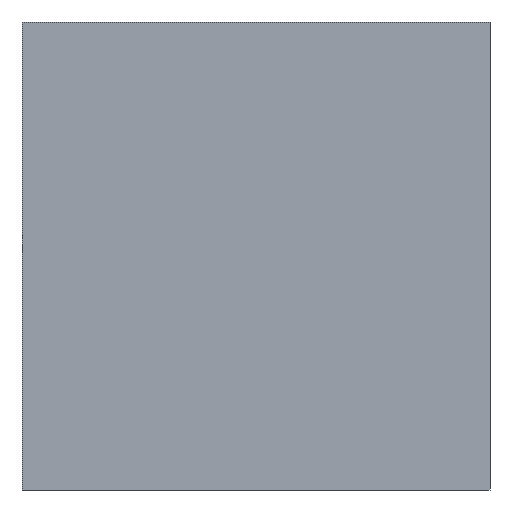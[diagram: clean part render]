
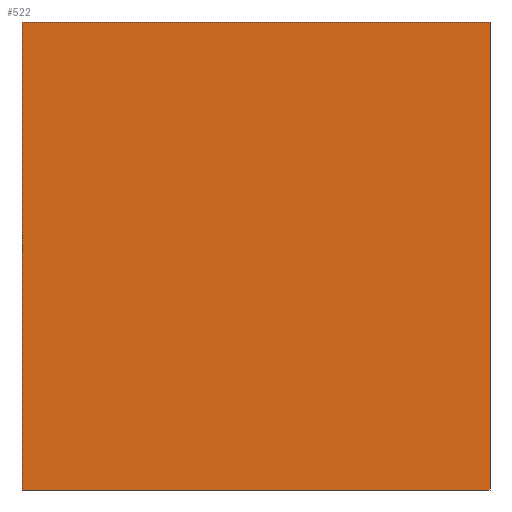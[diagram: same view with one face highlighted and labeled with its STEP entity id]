
A CAD part, left-side view. The second image highlights one B-rep face of the part: STEP entity #522.
In plain terms, the highlighted planar face has unit normal (-1, 0, 0).
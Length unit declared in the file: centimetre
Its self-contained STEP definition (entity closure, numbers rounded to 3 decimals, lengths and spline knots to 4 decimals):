
#1 = ORIENTED_EDGE ( 'NONE', *, *, #160, .T. ) ;
#21 = CARTESIAN_POINT ( 'NONE',  ( 0., 0., 1000. ) ) ;
#32 = DIRECTION ( 'NONE',  ( 0., 0., -1. ) ) ;
#75 = LINE ( 'NONE', #494, #85 ) ;
#84 = ORIENTED_EDGE ( 'NONE', *, *, #178, .F. ) ;
#85 = VECTOR ( 'NONE', #202, 100. ) ;
#95 = LINE ( 'NONE', #98, #247 ) ;
#98 = CARTESIAN_POINT ( 'NONE',  ( 0., 1000., 0. ) ) ;
#112 = FACE_OUTER_BOUND ( 'NONE', #126, .T. ) ;
#126 = EDGE_LOOP ( 'NONE', ( #142, #84, #499, #1 ) ) ;
#142 = ORIENTED_EDGE ( 'NONE', *, *, #365, .T. ) ;
#152 = PLANE ( 'NONE',  #239 ) ;
#160 = EDGE_CURVE ( 'NONE', #524, #310, #75, .T. ) ;
#171 = CARTESIAN_POINT ( 'NONE',  ( 0., 1000., 1000. ) ) ;
#178 = EDGE_CURVE ( 'NONE', #393, #211, #452, .T. ) ;
#202 = DIRECTION ( 'NONE',  ( 0., 0., -1. ) ) ;
#211 = VERTEX_POINT ( 'NONE', #316 ) ;
#239 = AXIS2_PLACEMENT_3D ( 'NONE', #450, #527, #32 ) ;
#247 = VECTOR ( 'NONE', #297, 100. ) ;
#264 = LINE ( 'NONE', #171, #447 ) ;
#281 = VECTOR ( 'NONE', #369, 100. ) ;
#297 = DIRECTION ( 'NONE',  ( 0., -1., 0. ) ) ;
#310 = VERTEX_POINT ( 'NONE', #426 ) ;
#316 = CARTESIAN_POINT ( 'NONE',  ( 0., 0., 0. ) ) ;
#323 = CARTESIAN_POINT ( 'NONE',  ( 0., 0., 1000. ) ) ;
#353 = DIRECTION ( 'NONE',  ( 0., -1., 0. ) ) ;
#365 = EDGE_CURVE ( 'NONE', #310, #211, #95, .T. ) ;
#369 = DIRECTION ( 'NONE',  ( 0., 0., -1. ) ) ;
#393 = VERTEX_POINT ( 'NONE', #21 ) ;
#399 = EDGE_CURVE ( 'NONE', #524, #393, #264, .T. ) ;
#403 = CARTESIAN_POINT ( 'NONE',  ( 0., 1000., 1000. ) ) ;
#426 = CARTESIAN_POINT ( 'NONE',  ( 0., 1000., 0. ) ) ;
#447 = VECTOR ( 'NONE', #353, 100. ) ;
#450 = CARTESIAN_POINT ( 'NONE',  ( 0., 1000., 1000. ) ) ;
#452 = LINE ( 'NONE', #323, #281 ) ;
#494 = CARTESIAN_POINT ( 'NONE',  ( 0., 1000., 1000. ) ) ;
#499 = ORIENTED_EDGE ( 'NONE', *, *, #399, .F. ) ;
#522 = ADVANCED_FACE ( 'NONE', ( #112 ), #152, .F. ) ;
#524 = VERTEX_POINT ( 'NONE', #403 ) ;
#527 = DIRECTION ( 'NONE',  ( 1., 0., 0. ) ) ;
